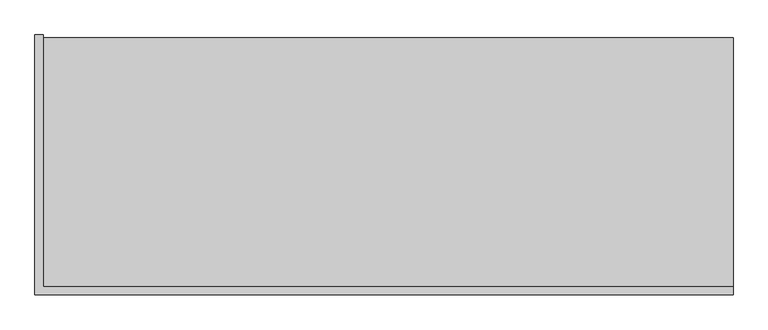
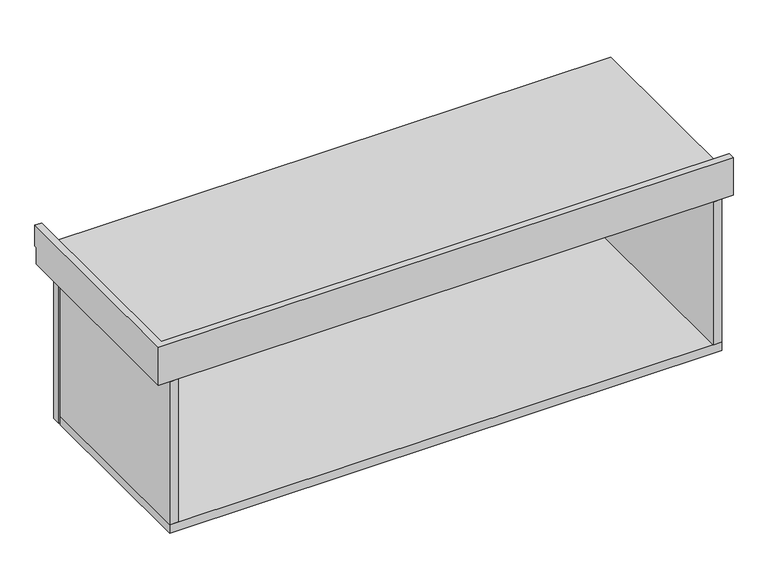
"""IFC4 building model written with IfcOpenShell, lengths in millimetres: furniture geometry, Mueble colgado 2 cajones al lado - lavabo sobreponer : MB10  mueble baño colgado-2 cajones al lado 151."""

from ifc_helpers import new_model, si_unit, frame, origin, place, context, project, spatial, polyline, outline, extrude, faceted_brep, source, transform, mapped, element, save


def furniture_25611562(model_context):
    return source(origin(), model_context, "Body", "SolidModel", [
        extrude(outline(polyline([(-495.0, 520.0), (-495.0, 540.0), (120.0, 540.0), (120.0, 520.0), (-495.0, 520.0)])), frame((0.0, 0.0, 350.0), z_axis=(0.0, 0.0, 1.0), x_axis=(1.0, 0.0, 0.0)), (0.0, 0.0, 1.0), 350.0),
        faceted_brep([(-520.0, 570.0, 800.0), (-505.0, 570.0, 800.0), (-505.0, 570.0, 750.0), (-520.0, 570.0, 750.0), (-520.0, 90.0, 800.0), (770.0, 90.0, 800.0), (770.0, 105.0, 800.0), (-505.0, 105.0, 800.0), (-505.0, 105.0, 750.0), (-505.0, 565.0, 750.0), (-520.0, 565.0, 750.0), (-520.0, 565.0, 710.0), (-520.0, 90.0, 710.0), (770.0, 105.0, 750.0), (770.0, 90.0, 710.0), (770.0, 565.0, 710.0), (770.0, 565.0, 750.0)], [[[0, 1, 2, 3]], [[1, 0, 4, 5, 6, 7]], [[2, 1, 7, 8, 9]], [[0, 3, 10, 11, 12, 4]], [[7, 6, 13, 8]], [[5, 4, 12, 14]], [[6, 5, 14, 15, 16, 13]], [[16, 9, 8, 13]], [[15, 14, 12, 11]], [[3, 2, 9, 10]], [[16, 15, 11, 10, 9]]]),
        extrude(outline(polyline([(745.0, 540.0), (745.0, 520.0), (130.0, 520.0), (130.0, 540.0), (745.0, 540.0)])), frame((0.0, 0.0, 350.0), z_axis=(0.0, 0.0, 1.0), x_axis=(1.0, 0.0, 0.0)), (0.0, 0.0, 1.0), 350.0),
        extrude(outline(polyline([(745.0, 90.0), (725.0, 90.0), (725.0, 515.0), (745.0, 515.0), (745.0, 90.0)])), frame((0.0, 0.0, 370.0), z_axis=(0.0, 0.0, 1.0), x_axis=(1.0, 0.0, 0.0)), (0.0, 0.0, 1.0), 340.0),
        extrude(outline(polyline([(-475.0, 90.0), (-495.0, 90.0), (-495.0, 515.0), (-475.0, 515.0), (-475.0, 90.0)])), frame((0.0, 0.0, 370.0), z_axis=(0.0, 0.0, 1.0), x_axis=(1.0, 0.0, 0.0)), (0.0, 0.0, 1.0), 340.0),
        extrude(outline(polyline([(745.0, 515.0), (745.0, 90.0), (-495.0, 90.0), (-495.0, 515.0), (745.0, 515.0)])), frame((0.0, 0.0, 350.0), z_axis=(0.0, 0.0, 1.0), x_axis=(1.0, 0.0, 0.0)), (0.0, 0.0, 1.0), 20.0),
    ])


if __name__ == "__main__":
    model = new_model("IFC4")
    model_context = context("Model", 3, world=origin())
    ifc_project = project(units=[si_unit("LENGTHUNIT", "METRE", prefix="MILLI")], contexts=[model_context])
    site = spatial("IfcSite", under=ifc_project)
    building = spatial("IfcBuilding", under=site)
    placement = place(None, origin())
    furniture_shape = furniture_25611562(model_context)
    element("IfcFurniture", 1, ObjectType="Mueble colgado 2 cajones al lado - lavabo sobreponer : MB10  mueble baño colgado-2 cajones al lado 151", at=placement, inside=building, context=model_context, shape_type="MappedRepresentation", body=[
        mapped(furniture_shape, transform((0.0, 0.0, 0.0), x_axis=(1.0, 0.0, 0.0), y_axis=(0.0, 1.0, 0.0), z_axis=(0.0, 0.0, 1.0))),
    ])
    save(model, "model.ifc")
